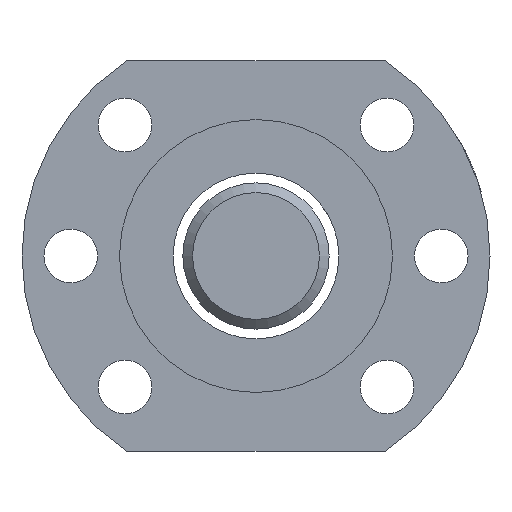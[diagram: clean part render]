
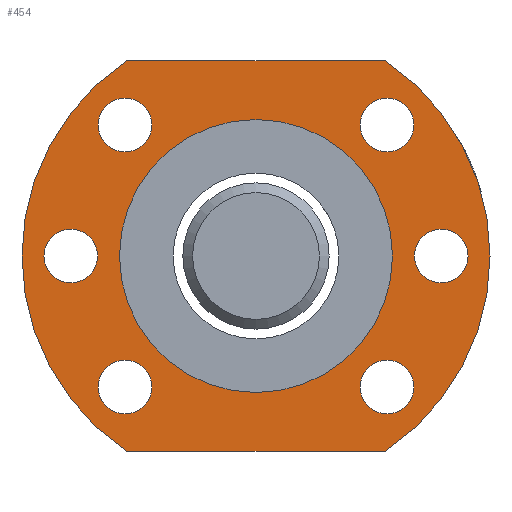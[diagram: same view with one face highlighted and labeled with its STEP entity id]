
A CAD part, left-side view. The second image highlights one B-rep face of the part: STEP entity #454.
In plain terms, the highlighted planar face has unit normal (-1, 0, 0).
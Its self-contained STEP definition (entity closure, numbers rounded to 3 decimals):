
#64=LINE('',#723,#72);
#69=LINE('',#764,#77);
#72=VECTOR('',#601,1000.);
#77=VECTOR('',#614,1000.);
#82=PLANE('',#526);
#122=ORIENTED_EDGE('',*,*,#216,.F.);
#123=ORIENTED_EDGE('',*,*,#208,.T.);
#124=ORIENTED_EDGE('',*,*,#200,.T.);
#125=ORIENTED_EDGE('',*,*,#214,.T.);
#126=ORIENTED_EDGE('',*,*,#211,.T.);
#127=ORIENTED_EDGE('',*,*,#199,.F.);
#128=ORIENTED_EDGE('',*,*,#197,.F.);
#129=ORIENTED_EDGE('',*,*,#189,.T.);
#130=ORIENTED_EDGE('',*,*,#191,.T.);
#131=ORIENTED_EDGE('',*,*,#195,.F.);
#132=ORIENTED_EDGE('',*,*,#193,.T.);
#189=EDGE_CURVE('',#238,#238,#278,.T.);
#191=EDGE_CURVE('',#240,#240,#280,.T.);
#193=EDGE_CURVE('',#242,#242,#282,.T.);
#195=EDGE_CURVE('',#244,#244,#284,.T.);
#197=EDGE_CURVE('',#246,#246,#286,.T.);
#199=EDGE_CURVE('',#248,#248,#288,.T.);
#200=EDGE_CURVE('',#249,#250,#64,.T.);
#208=EDGE_CURVE('',#257,#249,#289,.T.);
#211=EDGE_CURVE('',#259,#257,#69,.T.);
#214=EDGE_CURVE('',#250,#259,#291,.T.);
#216=EDGE_CURVE('',#261,#261,#293,.T.);
#238=VERTEX_POINT('',#696);
#240=VERTEX_POINT('',#701);
#242=VERTEX_POINT('',#706);
#244=VERTEX_POINT('',#711);
#246=VERTEX_POINT('',#716);
#248=VERTEX_POINT('',#721);
#249=VERTEX_POINT('',#724);
#250=VERTEX_POINT('',#725);
#257=VERTEX_POINT('',#759);
#259=VERTEX_POINT('',#765);
#261=VERTEX_POINT('',#774);
#278=CIRCLE('',#502,2.75);
#280=CIRCLE('',#505,2.75);
#282=CIRCLE('',#508,2.75);
#284=CIRCLE('',#511,2.75);
#286=CIRCLE('',#514,2.75);
#288=CIRCLE('',#517,2.75);
#289=CIRCLE('',#520,24.);
#291=CIRCLE('',#524,24.);
#293=CIRCLE('',#527,14.);
#324=EDGE_LOOP('',(#122));
#325=EDGE_LOOP('',(#123,#124,#125,#126));
#326=EDGE_LOOP('',(#127));
#327=EDGE_LOOP('',(#128));
#328=EDGE_LOOP('',(#129));
#329=EDGE_LOOP('',(#130));
#330=EDGE_LOOP('',(#131));
#331=EDGE_LOOP('',(#132));
#385=FACE_BOUND('',#324,.T.);
#386=FACE_BOUND('',#325,.T.);
#387=FACE_BOUND('',#326,.T.);
#388=FACE_BOUND('',#327,.T.);
#389=FACE_BOUND('',#328,.T.);
#390=FACE_BOUND('',#329,.T.);
#391=FACE_BOUND('',#330,.T.);
#392=FACE_BOUND('',#331,.T.);
#454=ADVANCED_FACE('',(#385,#386,#387,#388,#389,#390,#391,#392),#82,.T.);
#502=AXIS2_PLACEMENT_3D('',#695,#567,#568);
#505=AXIS2_PLACEMENT_3D('',#700,#573,#574);
#508=AXIS2_PLACEMENT_3D('',#705,#579,#580);
#511=AXIS2_PLACEMENT_3D('',#710,#585,#586);
#514=AXIS2_PLACEMENT_3D('',#715,#591,#592);
#517=AXIS2_PLACEMENT_3D('',#720,#597,#598);
#520=AXIS2_PLACEMENT_3D('',#758,#607,#608);
#524=AXIS2_PLACEMENT_3D('',#770,#619,#620);
#526=AXIS2_PLACEMENT_3D('',#772,#623,#624);
#527=AXIS2_PLACEMENT_3D('',#773,#625,#626);
#567=DIRECTION('',(1.,0.,0.));
#568=DIRECTION('',(0.,0.,1.));
#573=DIRECTION('',(1.,0.,0.));
#574=DIRECTION('',(0.,0.,1.));
#579=DIRECTION('',(1.,0.,0.));
#580=DIRECTION('',(0.,0.,1.));
#585=DIRECTION('',(-1.,0.,0.));
#586=DIRECTION('',(0.,0.,1.));
#591=DIRECTION('',(-1.,0.,0.));
#592=DIRECTION('',(0.,0.,1.));
#597=DIRECTION('',(-1.,0.,0.));
#598=DIRECTION('',(0.,0.,1.));
#601=DIRECTION('',(0.,1.,0.));
#607=DIRECTION('',(-1.,0.,0.));
#608=DIRECTION('',(0.,0.,-1.));
#614=DIRECTION('',(0.,-1.,0.));
#619=DIRECTION('',(-1.,0.,0.));
#620=DIRECTION('',(0.,0.,-1.));
#623=DIRECTION('',(-1.,0.,0.));
#624=DIRECTION('',(0.,0.,1.));
#625=DIRECTION('',(-1.,0.,0.));
#626=DIRECTION('',(0.,0.,-1.));
#695=CARTESIAN_POINT('',(-70.362,-63.704,2.369));
#696=CARTESIAN_POINT('',(-70.362,-63.704,5.119));
#700=CARTESIAN_POINT('',(-70.362,-69.269,-11.066));
#701=CARTESIAN_POINT('',(-70.362,-69.269,-8.316));
#705=CARTESIAN_POINT('',(-70.362,-63.704,-24.501));
#706=CARTESIAN_POINT('',(-70.362,-63.704,-21.751));
#710=CARTESIAN_POINT('',(-70.362,-36.834,-24.501));
#711=CARTESIAN_POINT('',(-70.362,-36.834,-21.751));
#715=CARTESIAN_POINT('',(-70.362,-36.834,2.369));
#716=CARTESIAN_POINT('',(-70.362,-36.834,5.119));
#720=CARTESIAN_POINT('',(-70.362,-31.269,-11.066));
#721=CARTESIAN_POINT('',(-70.362,-31.269,-8.316));
#723=CARTESIAN_POINT('',(-70.362,-63.535,8.934));
#724=CARTESIAN_POINT('',(-70.362,-63.535,8.934));
#725=CARTESIAN_POINT('',(-70.362,-37.002,8.934));
#758=CARTESIAN_POINT('',(-70.362,-50.269,-11.066));
#759=CARTESIAN_POINT('',(-70.362,-63.535,-31.066));
#764=CARTESIAN_POINT('',(-70.362,-37.002,-31.066));
#765=CARTESIAN_POINT('',(-70.362,-37.002,-31.066));
#770=CARTESIAN_POINT('',(-70.362,-50.269,-11.066));
#772=CARTESIAN_POINT('',(-70.362,-50.269,-11.066));
#773=CARTESIAN_POINT('',(-70.362,-50.269,-11.066));
#774=CARTESIAN_POINT('',(-70.362,-50.269,-25.066));
